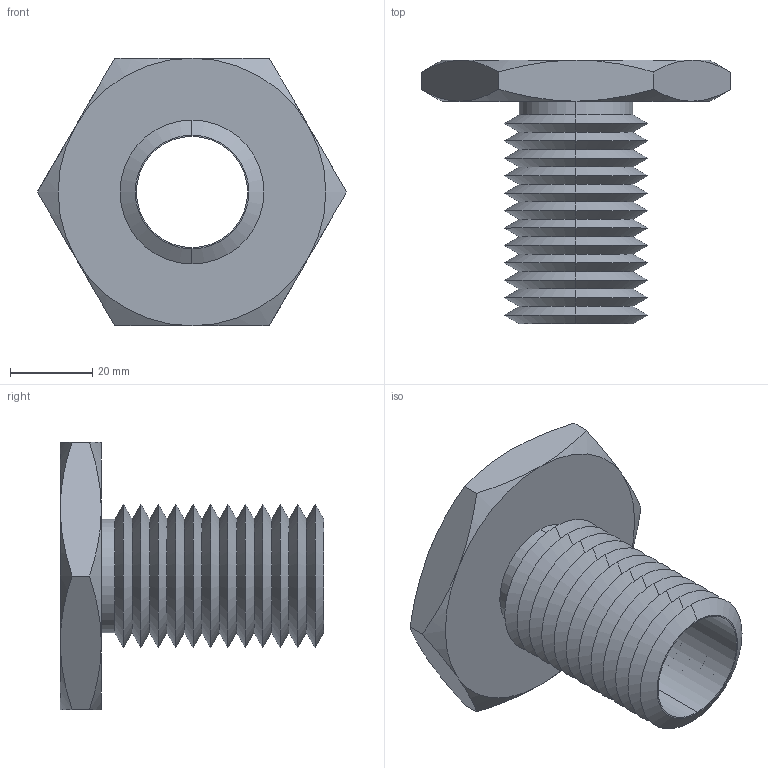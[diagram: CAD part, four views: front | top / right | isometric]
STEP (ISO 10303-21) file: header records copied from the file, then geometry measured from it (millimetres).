
FILE_DESCRIPTION (( 'STEP AP203' ), '1' );
FILE_NAME ('63302.W5138_M27x3.step', '2013-12-08T11:43:19', ( 'User' ), ( '' ), 'SwSTEP 2.0', 'SolidWorks 2009', '' );
FILE_SCHEMA (( 'CONFIG_CONTROL_DESIGN' ));
Length unit declared in the file: millimetre
Products named in the file (1): 63302.W5138_M27x3
Bounding box: 75.06 x 64 x 65 mm (x, y, z)
Volume: 40030.8 mm3; surface area: 23625.8 mm2
Topology: 1 solids, 1 shells, 75 faces, 154 edges, 82 vertices
Faces by surface type: cone 62, plane 9, cylinder 4
Entity records: 2139 total; most frequent: CARTESIAN_POINT 496, DIRECTION 352, ORIENTED_EDGE 308, EDGE_CURVE 154, AXIS2_PLACEMENT_3D 146, VERTEX_POINT 82, EDGE_LOOP 78, ADVANCED_FACE 75
